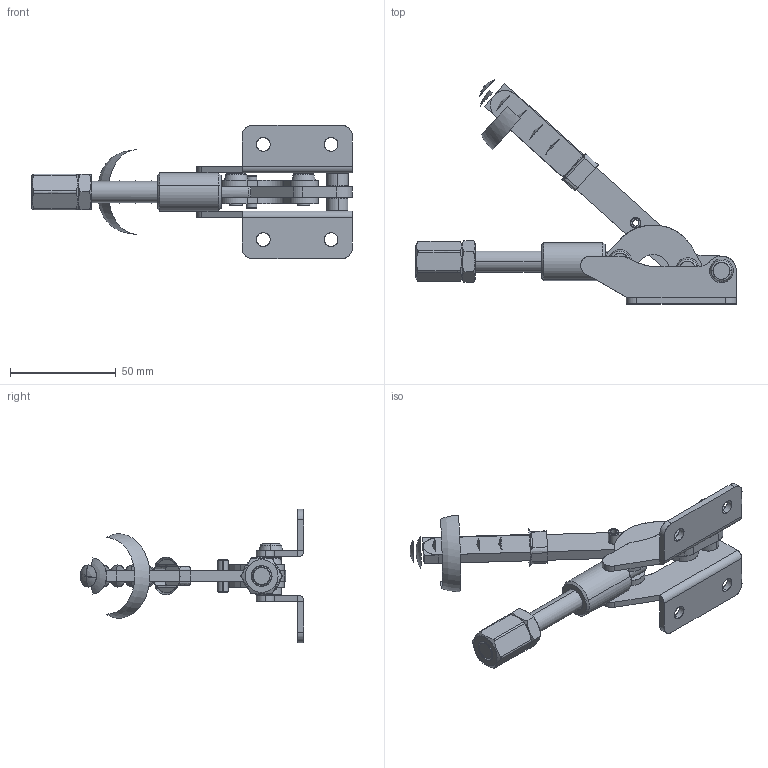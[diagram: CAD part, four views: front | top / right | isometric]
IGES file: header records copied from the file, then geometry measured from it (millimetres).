
Start section: SolidWorks IGES file using analytic representation for surfaces
Global section: file name: \\BARTOP_SV6\share\SOLIDWORKS\工具事業部\坂入用\受け渡し\作業中\2015.06.30\ISK-50A0\ISK-50A0.IGS; native system: SolidWorks 2015; preprocessor: SolidWorks 2015; author: SOLID02; date: 150630.155548; units: millimetre
Bounding box: 151.4 x 105.79 x 63 mm (x, y, z)
Surface area: 36574.1 mm2 (no closed solid volume)
Topology: 0 solids, 0 shells, 323 faces, 4577 edges, 4568 vertices
Faces by surface type: revolution 188, bspline 135
